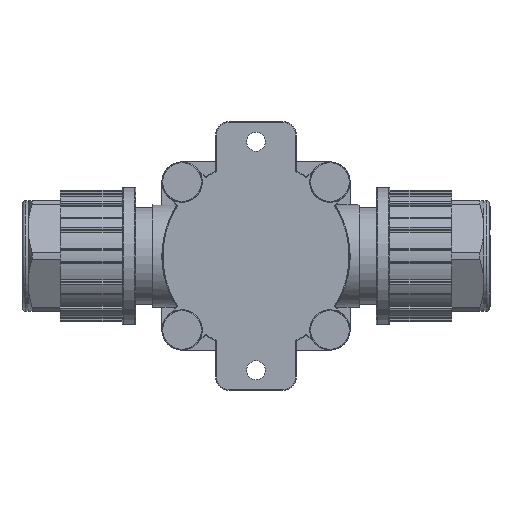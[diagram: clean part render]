
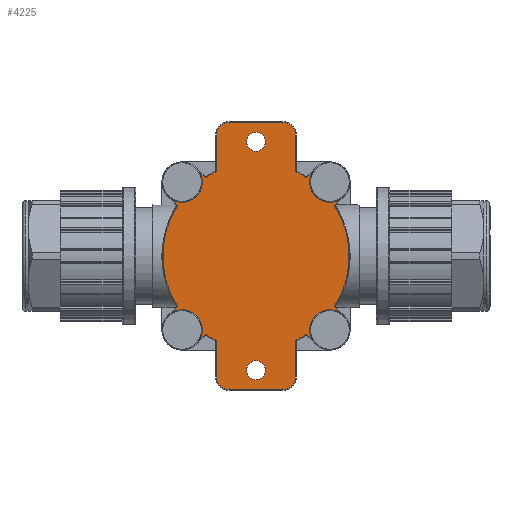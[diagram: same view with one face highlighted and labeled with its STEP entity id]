
A CAD part, front view. The second image highlights one B-rep face of the part: STEP entity #4225.
In plain terms, the highlighted planar face has unit normal (0, -1, 0).
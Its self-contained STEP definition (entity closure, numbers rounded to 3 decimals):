
#1202=PLANE('',#14229);
#2074=LINE('',#20651,#3186);
#2075=LINE('',#20655,#3187);
#2076=LINE('',#20659,#3188);
#2077=LINE('',#20663,#3189);
#2078=LINE('',#20667,#3190);
#2079=LINE('',#20671,#3191);
#2080=LINE('',#20675,#3192);
#2081=LINE('',#20679,#3193);
#2082=LINE('',#20683,#3194);
#2083=LINE('',#20687,#3195);
#2084=LINE('',#20691,#3196);
#2085=LINE('',#20695,#3197);
#2086=LINE('',#20699,#3198);
#2087=LINE('',#20703,#3199);
#3186=VECTOR('',#16146,1.);
#3187=VECTOR('',#16149,1.);
#3188=VECTOR('',#16152,1.);
#3189=VECTOR('',#16155,1.);
#3190=VECTOR('',#16158,1.);
#3191=VECTOR('',#16161,1.);
#3192=VECTOR('',#16164,1.);
#3193=VECTOR('',#16167,1.);
#3194=VECTOR('',#16170,1.);
#3195=VECTOR('',#16173,1.);
#3196=VECTOR('',#16176,1.);
#3197=VECTOR('',#16179,1.);
#3198=VECTOR('',#16182,1.);
#3199=VECTOR('',#16185,1.);
#4225=ADVANCED_FACE('',(#5137,#5138,#5139),#1202,.F.);
#5137=FACE_BOUND('',#5606,.T.);
#5138=FACE_BOUND('',#5607,.T.);
#5139=FACE_BOUND('',#5608,.T.);
#5606=EDGE_LOOP('',(#7367,#7368,#7369,#7370,#7371,#7372,#7373,#7374,#7375,
#7376,#7377,#7378,#7379,#7380,#7381,#7382,#7383,#7384,#7385,#7386,#7387,
#7388,#7389,#7390,#7391,#7392,#7393,#7394));
#5607=EDGE_LOOP('',(#7395));
#5608=EDGE_LOOP('',(#7396));
#7367=ORIENTED_EDGE('',*,*,#11941,.F.);
#7368=ORIENTED_EDGE('',*,*,#11942,.T.);
#7369=ORIENTED_EDGE('',*,*,#11943,.T.);
#7370=ORIENTED_EDGE('',*,*,#11944,.T.);
#7371=ORIENTED_EDGE('',*,*,#11945,.F.);
#7372=ORIENTED_EDGE('',*,*,#11946,.T.);
#7373=ORIENTED_EDGE('',*,*,#11947,.T.);
#7374=ORIENTED_EDGE('',*,*,#11948,.T.);
#7375=ORIENTED_EDGE('',*,*,#11949,.T.);
#7376=ORIENTED_EDGE('',*,*,#11950,.T.);
#7377=ORIENTED_EDGE('',*,*,#11951,.T.);
#7378=ORIENTED_EDGE('',*,*,#11952,.T.);
#7379=ORIENTED_EDGE('',*,*,#11953,.T.);
#7380=ORIENTED_EDGE('',*,*,#11954,.T.);
#7381=ORIENTED_EDGE('',*,*,#11955,.F.);
#7382=ORIENTED_EDGE('',*,*,#11956,.T.);
#7383=ORIENTED_EDGE('',*,*,#11957,.T.);
#7384=ORIENTED_EDGE('',*,*,#11958,.T.);
#7385=ORIENTED_EDGE('',*,*,#11959,.F.);
#7386=ORIENTED_EDGE('',*,*,#11960,.T.);
#7387=ORIENTED_EDGE('',*,*,#11961,.T.);
#7388=ORIENTED_EDGE('',*,*,#11962,.T.);
#7389=ORIENTED_EDGE('',*,*,#11963,.T.);
#7390=ORIENTED_EDGE('',*,*,#11964,.T.);
#7391=ORIENTED_EDGE('',*,*,#11965,.T.);
#7392=ORIENTED_EDGE('',*,*,#11966,.T.);
#7393=ORIENTED_EDGE('',*,*,#11967,.T.);
#7394=ORIENTED_EDGE('',*,*,#11968,.T.);
#7395=ORIENTED_EDGE('',*,*,#11969,.T.);
#7396=ORIENTED_EDGE('',*,*,#11970,.T.);
#10457=VERTEX_POINT('',#20649);
#10458=VERTEX_POINT('',#20650);
#10459=VERTEX_POINT('',#20652);
#10460=VERTEX_POINT('',#20654);
#10461=VERTEX_POINT('',#20656);
#10462=VERTEX_POINT('',#20658);
#10463=VERTEX_POINT('',#20660);
#10464=VERTEX_POINT('',#20662);
#10465=VERTEX_POINT('',#20664);
#10466=VERTEX_POINT('',#20666);
#10467=VERTEX_POINT('',#20668);
#10468=VERTEX_POINT('',#20670);
#10469=VERTEX_POINT('',#20672);
#10470=VERTEX_POINT('',#20674);
#10471=VERTEX_POINT('',#20676);
#10472=VERTEX_POINT('',#20678);
#10473=VERTEX_POINT('',#20680);
#10474=VERTEX_POINT('',#20682);
#10475=VERTEX_POINT('',#20684);
#10476=VERTEX_POINT('',#20686);
#10477=VERTEX_POINT('',#20688);
#10478=VERTEX_POINT('',#20690);
#10479=VERTEX_POINT('',#20692);
#10480=VERTEX_POINT('',#20694);
#10481=VERTEX_POINT('',#20696);
#10482=VERTEX_POINT('',#20698);
#10483=VERTEX_POINT('',#20700);
#10484=VERTEX_POINT('',#20702);
#10485=VERTEX_POINT('',#20705);
#10486=VERTEX_POINT('',#20707);
#11941=EDGE_CURVE('',#10457,#10458,#13475,.T.);
#11942=EDGE_CURVE('',#10457,#10459,#2074,.T.);
#11943=EDGE_CURVE('',#10459,#10460,#13476,.T.);
#11944=EDGE_CURVE('',#10460,#10461,#2075,.T.);
#11945=EDGE_CURVE('',#10462,#10461,#13477,.T.);
#11946=EDGE_CURVE('',#10462,#10463,#2076,.T.);
#11947=EDGE_CURVE('',#10463,#10464,#13478,.T.);
#11948=EDGE_CURVE('',#10464,#10465,#2077,.T.);
#11949=EDGE_CURVE('',#10465,#10466,#13479,.T.);
#11950=EDGE_CURVE('',#10466,#10467,#2078,.T.);
#11951=EDGE_CURVE('',#10467,#10468,#13480,.T.);
#11952=EDGE_CURVE('',#10468,#10469,#2079,.T.);
#11953=EDGE_CURVE('',#10469,#10470,#13481,.T.);
#11954=EDGE_CURVE('',#10470,#10471,#2080,.T.);
#11955=EDGE_CURVE('',#10472,#10471,#13482,.T.);
#11956=EDGE_CURVE('',#10472,#10473,#2081,.T.);
#11957=EDGE_CURVE('',#10473,#10474,#13483,.T.);
#11958=EDGE_CURVE('',#10474,#10475,#2082,.T.);
#11959=EDGE_CURVE('',#10476,#10475,#13484,.T.);
#11960=EDGE_CURVE('',#10476,#10477,#2083,.T.);
#11961=EDGE_CURVE('',#10477,#10478,#13485,.T.);
#11962=EDGE_CURVE('',#10478,#10479,#2084,.T.);
#11963=EDGE_CURVE('',#10479,#10480,#13486,.T.);
#11964=EDGE_CURVE('',#10480,#10481,#2085,.T.);
#11965=EDGE_CURVE('',#10481,#10482,#13487,.T.);
#11966=EDGE_CURVE('',#10482,#10483,#2086,.T.);
#11967=EDGE_CURVE('',#10483,#10484,#13488,.T.);
#11968=EDGE_CURVE('',#10484,#10458,#2087,.T.);
#11969=EDGE_CURVE('',#10485,#10485,#13489,.T.);
#11970=EDGE_CURVE('',#10486,#10486,#13490,.T.);
#13475=CIRCLE('',#14213,7.5);
#13476=CIRCLE('',#14214,34.7);
#13477=CIRCLE('',#14215,7.5);
#13478=CIRCLE('',#14216,34.7);
#13479=CIRCLE('',#14217,4.7);
#13480=CIRCLE('',#14218,4.7);
#13481=CIRCLE('',#14219,34.7);
#13482=CIRCLE('',#14220,7.5);
#13483=CIRCLE('',#14221,34.7);
#13484=CIRCLE('',#14222,7.5);
#13485=CIRCLE('',#14223,34.7);
#13486=CIRCLE('',#14224,4.7);
#13487=CIRCLE('',#14225,4.7);
#13488=CIRCLE('',#14226,34.7);
#13489=CIRCLE('',#14227,3.5);
#13490=CIRCLE('',#14228,3.5);
#14213=AXIS2_PLACEMENT_3D('',#20648,#16144,#16145);
#14214=AXIS2_PLACEMENT_3D('',#20653,#16147,#16148);
#14215=AXIS2_PLACEMENT_3D('',#20657,#16150,#16151);
#14216=AXIS2_PLACEMENT_3D('',#20661,#16153,#16154);
#14217=AXIS2_PLACEMENT_3D('',#20665,#16156,#16157);
#14218=AXIS2_PLACEMENT_3D('',#20669,#16159,#16160);
#14219=AXIS2_PLACEMENT_3D('',#20673,#16162,#16163);
#14220=AXIS2_PLACEMENT_3D('',#20677,#16165,#16166);
#14221=AXIS2_PLACEMENT_3D('',#20681,#16168,#16169);
#14222=AXIS2_PLACEMENT_3D('',#20685,#16171,#16172);
#14223=AXIS2_PLACEMENT_3D('',#20689,#16174,#16175);
#14224=AXIS2_PLACEMENT_3D('',#20693,#16177,#16178);
#14225=AXIS2_PLACEMENT_3D('',#20697,#16180,#16181);
#14226=AXIS2_PLACEMENT_3D('',#20701,#16183,#16184);
#14227=AXIS2_PLACEMENT_3D('',#20704,#16186,#16187);
#14228=AXIS2_PLACEMENT_3D('',#20706,#16188,#16189);
#14229=AXIS2_PLACEMENT_3D('',#20708,#16190,#16191);
#16144=DIRECTION('',(0.,-1.,0.));
#16145=DIRECTION('',(0.,0.,-1.));
#16146=DIRECTION('',(0.707,0.,-0.707));
#16147=DIRECTION('',(0.,-1.,0.));
#16148=DIRECTION('',(0.,0.,1.));
#16149=DIRECTION('',(-0.707,0.,-0.707));
#16150=DIRECTION('',(0.,-1.,0.));
#16151=DIRECTION('',(0.,0.,-1.));
#16152=DIRECTION('',(0.707,0.,0.707));
#16153=DIRECTION('',(0.,-1.,0.));
#16154=DIRECTION('',(0.,0.,1.));
#16155=DIRECTION('',(0.,0.,-1.));
#16156=DIRECTION('',(0.,-1.,0.));
#16157=DIRECTION('',(0.,0.,1.));
#16158=DIRECTION('',(1.,0.,0.));
#16159=DIRECTION('',(0.,-1.,0.));
#16160=DIRECTION('',(0.,0.,1.));
#16161=DIRECTION('',(0.,0.,1.));
#16162=DIRECTION('',(0.,-1.,0.));
#16163=DIRECTION('',(0.,0.,1.));
#16164=DIRECTION('',(0.707,0.,-0.707));
#16165=DIRECTION('',(0.,-1.,0.));
#16166=DIRECTION('',(0.,0.,-1.));
#16167=DIRECTION('',(-0.707,0.,0.707));
#16168=DIRECTION('',(0.,-1.,0.));
#16169=DIRECTION('',(0.,0.,1.));
#16170=DIRECTION('',(0.707,0.,0.707));
#16171=DIRECTION('',(0.,-1.,0.));
#16172=DIRECTION('',(0.,0.,-1.));
#16173=DIRECTION('',(-0.707,0.,-0.707));
#16174=DIRECTION('',(0.,-1.,0.));
#16175=DIRECTION('',(0.,0.,1.));
#16176=DIRECTION('',(0.,0.,1.));
#16177=DIRECTION('',(0.,-1.,0.));
#16178=DIRECTION('',(0.,0.,1.));
#16179=DIRECTION('',(-1.,0.,0.));
#16180=DIRECTION('',(0.,-1.,0.));
#16181=DIRECTION('',(0.,0.,1.));
#16182=DIRECTION('',(0.,0.,-1.));
#16183=DIRECTION('',(0.,-1.,0.));
#16184=DIRECTION('',(0.,0.,1.));
#16185=DIRECTION('',(-0.707,0.,0.707));
#16186=DIRECTION('',(0.,1.,0.));
#16187=DIRECTION('',(0.,0.,1.));
#16188=DIRECTION('',(0.,1.,0.));
#16189=DIRECTION('',(0.,0.,1.));
#16190=DIRECTION('',(0.,1.,0.));
#16191=DIRECTION('',(0.,0.,-1.));
#20648=CARTESIAN_POINT('',(-27.5,0.,27.5));
#20649=CARTESIAN_POINT('',(-31.106,0.,20.924));
#20650=CARTESIAN_POINT('',(-20.924,0.,31.106));
#20651=CARTESIAN_POINT('',(-29.094,0.,18.911));
#20652=CARTESIAN_POINT('',(-29.094,0.,18.911));
#20653=CARTESIAN_POINT('',(0.,0.,0.));
#20654=CARTESIAN_POINT('',(-29.094,0.,-18.911));
#20655=CARTESIAN_POINT('',(-31.106,0.,-20.924));
#20656=CARTESIAN_POINT('',(-31.106,0.,-20.924));
#20657=CARTESIAN_POINT('',(-27.5,0.,-27.5));
#20658=CARTESIAN_POINT('',(-20.924,0.,-31.106));
#20659=CARTESIAN_POINT('',(-18.911,0.,-29.094));
#20660=CARTESIAN_POINT('',(-18.911,0.,-29.094));
#20661=CARTESIAN_POINT('',(0.,0.,0.));
#20662=CARTESIAN_POINT('',(-14.7,0.,-31.432));
#20663=CARTESIAN_POINT('',(-14.7,0.,-45.));
#20664=CARTESIAN_POINT('',(-14.7,0.,-45.));
#20665=CARTESIAN_POINT('',(-10.,0.,-45.));
#20666=CARTESIAN_POINT('',(-10.,0.,-49.7));
#20667=CARTESIAN_POINT('',(10.,0.,-49.7));
#20668=CARTESIAN_POINT('',(10.,0.,-49.7));
#20669=CARTESIAN_POINT('',(10.,0.,-45.));
#20670=CARTESIAN_POINT('',(14.7,0.,-45.));
#20671=CARTESIAN_POINT('',(14.7,0.,-31.432));
#20672=CARTESIAN_POINT('',(14.7,0.,-31.432));
#20673=CARTESIAN_POINT('',(0.,0.,0.));
#20674=CARTESIAN_POINT('',(18.911,0.,-29.094));
#20675=CARTESIAN_POINT('',(20.924,0.,-31.106));
#20676=CARTESIAN_POINT('',(20.924,0.,-31.106));
#20677=CARTESIAN_POINT('',(27.5,0.,-27.5));
#20678=CARTESIAN_POINT('',(31.106,0.,-20.924));
#20679=CARTESIAN_POINT('',(29.094,0.,-18.911));
#20680=CARTESIAN_POINT('',(29.094,0.,-18.911));
#20681=CARTESIAN_POINT('',(0.,0.,0.));
#20682=CARTESIAN_POINT('',(29.094,0.,18.911));
#20683=CARTESIAN_POINT('',(31.106,0.,20.924));
#20684=CARTESIAN_POINT('',(31.106,0.,20.924));
#20685=CARTESIAN_POINT('',(27.5,0.,27.5));
#20686=CARTESIAN_POINT('',(20.924,0.,31.106));
#20687=CARTESIAN_POINT('',(18.911,0.,29.094));
#20688=CARTESIAN_POINT('',(18.911,0.,29.094));
#20689=CARTESIAN_POINT('',(0.,0.,0.));
#20690=CARTESIAN_POINT('',(14.7,0.,31.432));
#20691=CARTESIAN_POINT('',(14.7,0.,45.));
#20692=CARTESIAN_POINT('',(14.7,0.,45.));
#20693=CARTESIAN_POINT('',(10.,0.,45.));
#20694=CARTESIAN_POINT('',(10.,0.,49.7));
#20695=CARTESIAN_POINT('',(-10.,0.,49.7));
#20696=CARTESIAN_POINT('',(-10.,0.,49.7));
#20697=CARTESIAN_POINT('',(-10.,0.,45.));
#20698=CARTESIAN_POINT('',(-14.7,0.,45.));
#20699=CARTESIAN_POINT('',(-14.7,0.,31.432));
#20700=CARTESIAN_POINT('',(-14.7,0.,31.432));
#20701=CARTESIAN_POINT('',(0.,0.,0.));
#20702=CARTESIAN_POINT('',(-18.911,0.,29.094));
#20703=CARTESIAN_POINT('',(-20.924,0.,31.106));
#20704=CARTESIAN_POINT('',(0.,0.,42.5));
#20705=CARTESIAN_POINT('',(0.,0.,46.));
#20706=CARTESIAN_POINT('',(0.,0.,-42.5));
#20707=CARTESIAN_POINT('',(0.,0.,-39.));
#20708=CARTESIAN_POINT('',(0.,0.,0.));
